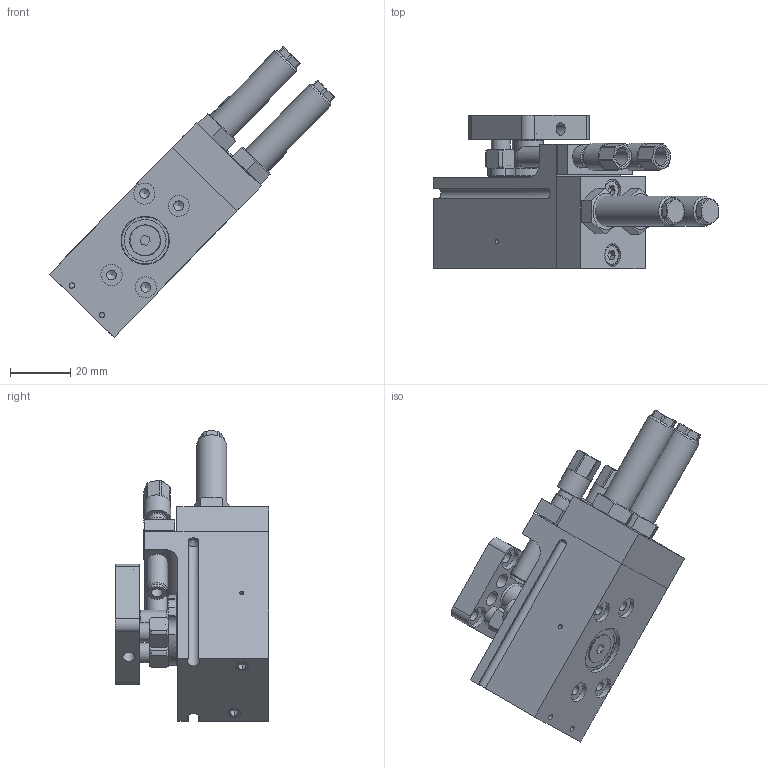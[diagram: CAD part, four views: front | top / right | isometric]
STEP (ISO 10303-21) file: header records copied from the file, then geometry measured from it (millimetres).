
FILE_DESCRIPTION(/* description */ (''),/* implementation_level */ '2;1');
FILE_NAME(/* name */ 'Schwenkeinheit SM-4-M-190-H-2-0-P.stp',/* time_stamp */ '2022-09-13T10:50:47+02:00',/* author */ ('gose'),/* organization */ (''),/* preprocessor_version */ 'ST-DEVELOPER v19.2',/* originating_system */ 'Autodesk Inventor 2023',/* authorisation */ '');
FILE_SCHEMA (('AUTOMOTIVE_DESIGN { 1 0 10303 214 3 1 1 }'));
Length unit declared in the file: inch
Products named in the file (3): Schwenkeinheit SM-4-M-190-H-2-0-P; Gehäuse komplett SMI-4-2-H_Shrinkwrap_1; Anschlagwelle komplett SMI-4-2
Assembly tree (2 placements, depth 2):
  Schwenkeinheit SM-4-M-190-H-2-0-P
    Gehäuse komplett SMI-4-2-H_Shrinkwrap_1
    Anschlagwelle komplett SMI-4-2
Bounding box: 94.72 x 51 x 96.35 mm (x, y, z)
Volume: 67468.7 mm3; surface area: 40656.3 mm2
Topology: 14 solids, 18 shells, 866 faces, 2233 edges, 1458 vertices
Faces by surface type: plane 411, cylinder 242, cone 128, torus 67, sphere 18
Full cylindrical faces by diameter (mm): 1.4 x2, 1.6 x4, 1.8 x17, 2.25 x2, 2.459 x2, 3 x4, 3.242 x4, 3.8 x2, 4 x2, 4.134 x13, 4.3 x2, 4.6 x2, 5 x9, 5.02 x12, 5.2 x2, 5.5 x2, 5.6 x2, 5.8 x2, 6 x4, 6.2 x2, 6.3 x2, 6.4 x2, 7 x17, 7.143 x2, 7.3 x4, 7.5 x4, 8 x3, 8.2 x4, 8.917 x2, 9 x2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
Entity records: 28299 total; most frequent: CARTESIAN_POINT 5713, DIRECTION 4803, ORIENTED_EDGE 4384, EDGE_CURVE 2192, AXIS2_PLACEMENT_3D 1945, VERTEX_POINT 1458, EDGE_LOOP 1036, LINE 913
